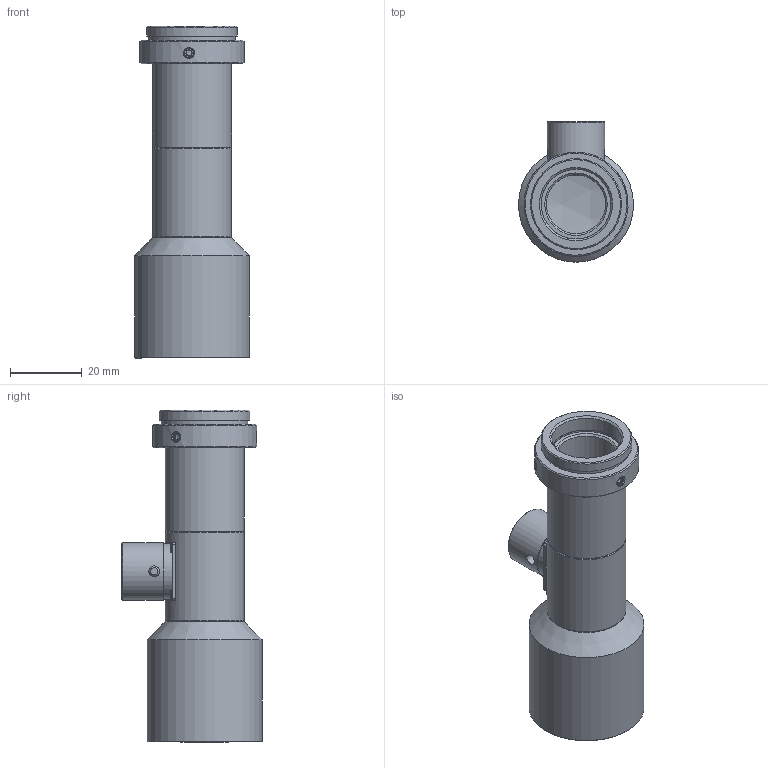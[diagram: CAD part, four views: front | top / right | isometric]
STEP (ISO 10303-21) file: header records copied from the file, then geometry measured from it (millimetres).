
FILE_DESCRIPTION(('STEP AP214'),'1');
FILE_NAME('RTK-05F-M65.stp','2026-03-19T02:42:59',(' '),(' '),'Spatial InterOp 3D',' ',' ');
FILE_SCHEMA(('AUTOMOTIVE_DESIGN { 1 0 10303 214 1 1 1 1 }'));
Length unit declared in the file: metre
Products named in the file (2): RTK-05F-M65; Component1
Assembly tree (1 placements, depth 2):
  RTK-05F-M65
    Component1
Bounding box: 32 x 39 x 92.39 mm (x, y, z)
Volume: 27344.2 mm3; surface area: 17329.5 mm2
Topology: 1 solids, 5 shells, 261 faces, 649 edges, 420 vertices
Faces by surface type: plane 141, cone 63, cylinder 38, torus 8, sphere 6, bspline 5
Full cylindrical faces by diameter (mm): 1.7 x4, 1.8 x4, 2.5 x3, 3 x3, 8 x1, 14.2 x1, 15.5 x1, 16 x1, 16.4 x1, 19 x1, 19.4 x1, 19.407 x1, 19.6 x1, 22 x2, 24.12 x1, 25.32 x1, 26.5 x1, 29 x1, 29.653 x1, 32 x1
Entity records: 9867 total; most frequent: CARTESIAN_POINT 1997, DIRECTION 1213, ORIENTED_EDGE 1070, EDGE_CURVE 535, AXIS2_PLACEMENT_3D 491, VERTEX_POINT 381, EDGE_LOOP 370, FACE_OUTER_BOUND 303
